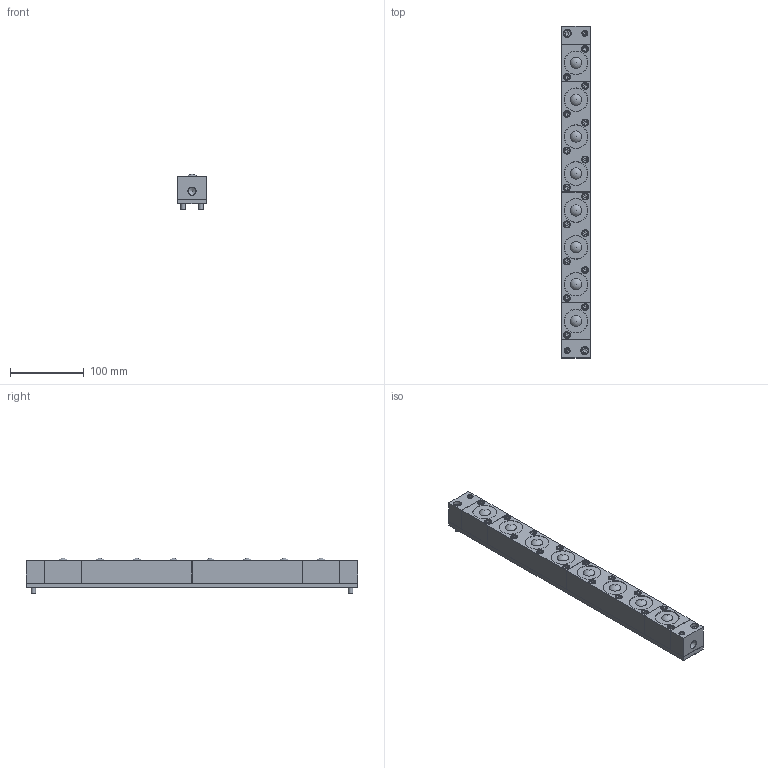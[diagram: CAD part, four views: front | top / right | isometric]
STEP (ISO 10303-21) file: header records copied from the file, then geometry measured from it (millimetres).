
FILE_DESCRIPTION(/* description */ (''),/* implementation_level */ '2;1');
FILE_NAME(/* name */ 'Z:\34-Tei\01-web 3Dデータ\40-ISR-38\X2\578B\X0\\ISR-38-450-A.stp',/* time_stamp */ '2015-01-15T17:55:19+09:00',/* author */ ('yamaki'),/* organization */ (''),/* preprocessor_version */ 'ST-DEVELOPER v15.6',/* originating_system */ 'Autodesk Inventor 2015',/* authorisation */ '');
FILE_SCHEMA (('AUTOMOTIVE_DESIGN { 1 0 10303 214 3 1 1 }'));
Length unit declared in the file: millimetre
Products named in the file (7): 4100AT-01-450; 4100AT-02; 4100AT-00; 4100AT-03; RSW10601; HCB10635; 4100AA
Bounding box: 38 x 450 x 48 mm (x, y, z)
Volume: 595014.6 mm3; surface area: 187471 mm2
Topology: 17 solids, 17 shells, 468 faces, 975 edges, 622 vertices
Faces by surface type: plane 309, cylinder 89, cone 40, torus 22, sphere 8
Full cylindrical faces by diameter (mm): 6 x2, 6.5 x2, 7 x2, 8 x2, 8.5 x16, 9.5 x16, 10 x2, 10.5 x1, 11 x2, 25.7 x8, 31.5 x8, 32 x8, 35 x16
Entity records: 6095 total; most frequent: CARTESIAN_POINT 1116, DIRECTION 972, ORIENTED_EDGE 846, EDGE_CURVE 423, AXIS2_PLACEMENT_3D 357, EDGE_LOOP 340, VERTEX_POINT 303, LINE 258
